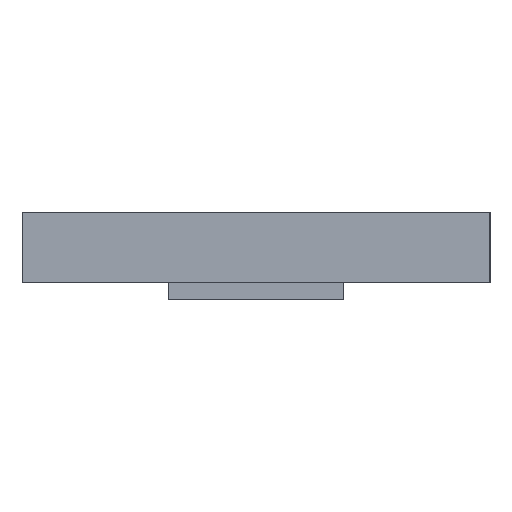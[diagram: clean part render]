
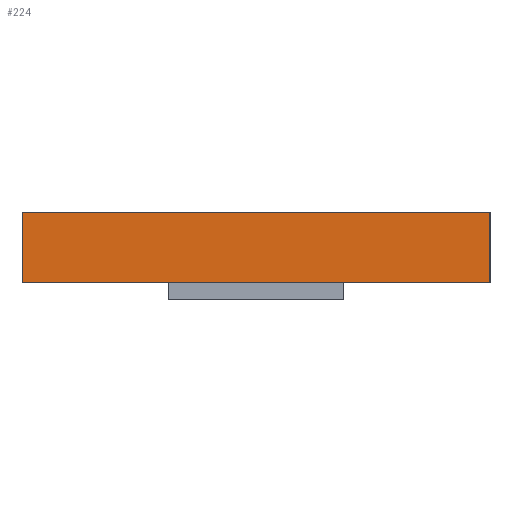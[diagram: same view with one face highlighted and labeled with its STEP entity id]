
A CAD part, left-side view. The second image highlights one B-rep face of the part: STEP entity #224.
In plain terms, the highlighted planar face has unit normal (-1, 0, 0).
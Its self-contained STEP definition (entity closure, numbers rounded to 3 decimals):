
#224=ADVANCED_FACE('',(#924),#926,.T.);
#924=FACE_BOUND('',#925,.T.);
#925=EDGE_LOOP('',(#1489,#1490,#1491,#1492));
#926=PLANE('',#927);
#927=AXIS2_PLACEMENT_3D('',#928,#929,#930);
#928=CARTESIAN_POINT('',(-50.,-40.,-6.));
#929=DIRECTION('',(-1.,0.,0.));
#930=DIRECTION('',(0.,0.,1.));
#1489=ORIENTED_EDGE('',*,*,#1787,.T.);
#1490=ORIENTED_EDGE('',*,*,#1733,.T.);
#1491=ORIENTED_EDGE('',*,*,#1812,.F.);
#1492=ORIENTED_EDGE('',*,*,#1738,.F.);
#1733=EDGE_CURVE('',#1930,#1928,#1931,.T.);
#1738=EDGE_CURVE('',#1938,#1940,#1941,.T.);
#1787=EDGE_CURVE('',#1938,#1930,#2036,.T.);
#1812=EDGE_CURVE('',#1940,#1928,#2079,.T.);
#1928=VERTEX_POINT('',#2280);
#1930=VERTEX_POINT('',#2284);
#1931=LINE('',#2285,#2286);
#1938=VERTEX_POINT('',#2302);
#1940=VERTEX_POINT('',#2306);
#1941=LINE('',#2307,#2308);
#2036=LINE('',#2524,#2525);
#2079=LINE('',#2617,#2618);
#2280=CARTESIAN_POINT('',(-50.,40.,6.));
#2284=CARTESIAN_POINT('',(-50.,-40.,6.));
#2285=CARTESIAN_POINT('',(-50.,-40.,6.));
#2286=VECTOR('',#2287,1.);
#2287=DIRECTION('',(0.,1.,0.));
#2302=CARTESIAN_POINT('',(-50.,-40.,-6.));
#2306=CARTESIAN_POINT('',(-50.,40.,-6.));
#2307=CARTESIAN_POINT('',(-50.,-40.,-6.));
#2308=VECTOR('',#2309,1.);
#2309=DIRECTION('',(0.,1.,0.));
#2524=CARTESIAN_POINT('',(-50.,-40.,-6.));
#2525=VECTOR('',#2526,1.);
#2526=DIRECTION('',(0.,0.,1.));
#2617=CARTESIAN_POINT('',(-50.,40.,-6.));
#2618=VECTOR('',#2619,1.);
#2619=DIRECTION('',(0.,0.,1.));
